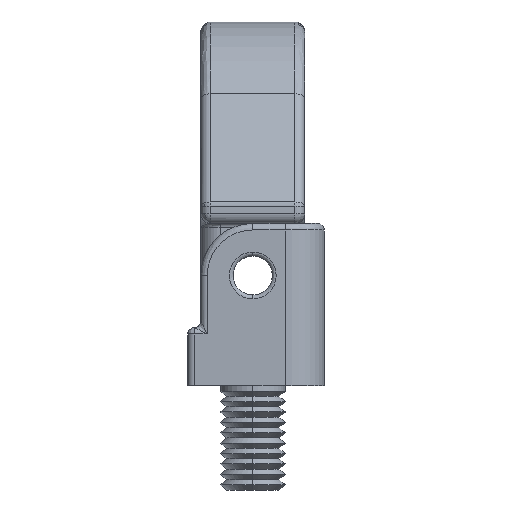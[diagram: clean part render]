
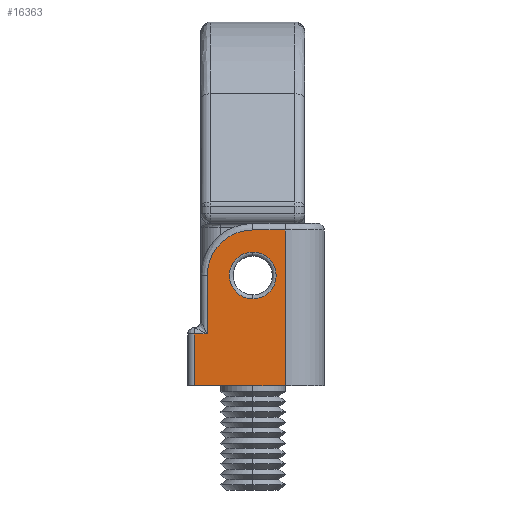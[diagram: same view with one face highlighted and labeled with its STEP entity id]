
A CAD part, left-side view. The second image highlights one B-rep face of the part: STEP entity #16363.
In plain terms, the highlighted planar face has unit normal (-1, 0, 0).
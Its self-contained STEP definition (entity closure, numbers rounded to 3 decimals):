
#341 = CARTESIAN_POINT ( 'NONE',  ( 4.261, -135.484, -228.515 ) ) ;
#794 = AXIS2_PLACEMENT_3D ( 'NONE', #1098, #1099, #1100 ) ;
#1072 = FACE_OUTER_BOUND ( 'NONE', #14357, .T. ) ;
#1087 = FACE_BOUND ( 'NONE', #14379, .T. ) ;
#1089 = PLANE ( 'NONE',  #794 ) ;
#1098 = CARTESIAN_POINT ( 'NONE',  ( 4.261, -139.484, -220.015 ) ) ;
#1099 = DIRECTION ( 'NONE',  ( 1., 0., 0. ) ) ;
#1100 = DIRECTION ( 'NONE',  ( 0., 1., 0. ) ) ;
#7823 =( BOUNDED_CURVE ( )  B_SPLINE_CURVE ( 3, ( #8089, #8093, #8094, #8095 ),
 .UNSPECIFIED., .F., .T. ) 
 B_SPLINE_CURVE_WITH_KNOTS ( ( 4, 4 ),
 ( 0.25, 0.75 ),
 .UNSPECIFIED. ) 
 CURVE ( )  GEOMETRIC_REPRESENTATION_ITEM ( )  RATIONAL_B_SPLINE_CURVE ( ( 1., 0.333, 0.333, 1. ) ) 
 REPRESENTATION_ITEM ( '' )  );
#8089 = CARTESIAN_POINT ( 'NONE',  ( 4.261, -139.984, -218.215 ) ) ;
#8093 = CARTESIAN_POINT ( 'NONE',  ( 4.261, -136.384, -218.215 ) ) ;
#8094 = CARTESIAN_POINT ( 'NONE',  ( 4.261, -136.384, -221.815 ) ) ;
#8095 = CARTESIAN_POINT ( 'NONE',  ( 4.261, -139.984, -221.815 ) ) ;
#8325 = CARTESIAN_POINT ( 'NONE',  ( 4.261, -139.984, -218.215 ) ) ;
#8326 = CARTESIAN_POINT ( 'NONE',  ( 4.261, -139.984, -221.815 ) ) ;
#8403 = CARTESIAN_POINT ( 'NONE',  ( 4.261, -142.484, -216.515 ) ) ;
#8406 = CARTESIAN_POINT ( 'NONE',  ( 4.261, -135.484, -224.515 ) ) ;
#8412 = CARTESIAN_POINT ( 'NONE',  ( 4.261, -136.484, -220.015 ) ) ;
#8413 = CARTESIAN_POINT ( 'NONE',  ( 4.261, -139.984, -216.515 ) ) ;
#8439 = CARTESIAN_POINT ( 'NONE',  ( 4.261, -136.484, -224.515 ) ) ;
#14357 = EDGE_LOOP ( 'NONE', ( #16215, #16216, #16217, #16218, #16219, #16220, #16221 ) ) ;
#14379 = EDGE_LOOP ( 'NONE', ( #16213, #16214 ) ) ;
#15943 = EDGE_CURVE ( 'NONE', #17893, #17926, #20333, .T. ) ;
#15945 = EDGE_CURVE ( 'NONE', #17926, #17899, #20325, .T. ) ;
#15947 = EDGE_CURVE ( 'NONE', #17899, #17900, #19663, .T. ) ;
#15949 = EDGE_CURVE ( 'NONE', #17900, #17890, #20350, .T. ) ;
#15950 = EDGE_CURVE ( 'NONE', #17813, #17812, #19664, .T. ) ;
#15970 = EDGE_CURVE ( 'NONE', #16189, #17893, #20403, .T. ) ;
#15972 = EDGE_CURVE ( 'NONE', #16189, #16185, #20422, .T. ) ;
#15973 = EDGE_CURVE ( 'NONE', #17890, #16185, #20420, .T. ) ;
#16185 = VERTEX_POINT ( 'NONE', #20867 ) ;
#16189 = VERTEX_POINT ( 'NONE', #341 ) ;
#16213 = ORIENTED_EDGE ( 'NONE', *, *, #15950, .F. ) ;
#16214 = ORIENTED_EDGE ( 'NONE', *, *, #17598, .F. ) ;
#16215 = ORIENTED_EDGE ( 'NONE', *, *, #15972, .T. ) ;
#16216 = ORIENTED_EDGE ( 'NONE', *, *, #15973, .F. ) ;
#16217 = ORIENTED_EDGE ( 'NONE', *, *, #15949, .F. ) ;
#16218 = ORIENTED_EDGE ( 'NONE', *, *, #15947, .F. ) ;
#16219 = ORIENTED_EDGE ( 'NONE', *, *, #15945, .F. ) ;
#16220 = ORIENTED_EDGE ( 'NONE', *, *, #15943, .F. ) ;
#16221 = ORIENTED_EDGE ( 'NONE', *, *, #15970, .F. ) ;
#16363 = ADVANCED_FACE ( 'NONE', ( #1087, #1072 ), #1089, .F. ) ;
#17598 = EDGE_CURVE ( 'NONE', #17812, #17813, #7823, .T. ) ;
#17812 = VERTEX_POINT ( 'NONE', #8325 ) ;
#17813 = VERTEX_POINT ( 'NONE', #8326 ) ;
#17890 = VERTEX_POINT ( 'NONE', #8403 ) ;
#17893 = VERTEX_POINT ( 'NONE', #8406 ) ;
#17899 = VERTEX_POINT ( 'NONE', #8412 ) ;
#17900 = VERTEX_POINT ( 'NONE', #8413 ) ;
#17926 = VERTEX_POINT ( 'NONE', #8439 ) ;
#19663 =( BOUNDED_CURVE ( )  B_SPLINE_CURVE ( 3, ( #20341, #20340, #20346, #20347 ),
 .UNSPECIFIED., .F., .T. ) 
 B_SPLINE_CURVE_WITH_KNOTS ( ( 4, 4 ),
 ( 0., 1. ),
 .UNSPECIFIED. ) 
 CURVE ( )  GEOMETRIC_REPRESENTATION_ITEM ( )  RATIONAL_B_SPLINE_CURVE ( ( 1., 0.805, 0.805, 1. ) ) 
 REPRESENTATION_ITEM ( '' )  );
#19664 =( BOUNDED_CURVE ( )  B_SPLINE_CURVE ( 3, ( #20349, #20348, #20356, #20357 ),
 .UNSPECIFIED., .F., .T. ) 
 B_SPLINE_CURVE_WITH_KNOTS ( ( 4, 4 ),
 ( 0.75, 1.25 ),
 .UNSPECIFIED. ) 
 CURVE ( )  GEOMETRIC_REPRESENTATION_ITEM ( )  RATIONAL_B_SPLINE_CURVE ( ( 1., 0.333, 0.333, 1. ) ) 
 REPRESENTATION_ITEM ( '' )  );
#19837 = VECTOR ( 'NONE', #20335, 1000. ) ;
#19839 = VECTOR ( 'NONE', #20339, 1000. ) ;
#19844 = VECTOR ( 'NONE', #20354, 1000. ) ;
#19865 = VECTOR ( 'NONE', #20427, 1000. ) ;
#19871 = VECTOR ( 'NONE', #20419, 1000. ) ;
#19874 = VECTOR ( 'NONE', #20429, 1000. ) ;
#20320 = CARTESIAN_POINT ( 'NONE',  ( 4.261, -136.484, -220.015 ) ) ;
#20325 = LINE ( 'NONE', #20320, #19839 ) ;
#20333 = LINE ( 'NONE', #20334, #19837 ) ;
#20334 = CARTESIAN_POINT ( 'NONE',  ( 4.261, -139.484, -224.515 ) ) ;
#20335 = DIRECTION ( 'NONE',  ( 0., -1., 0. ) ) ;
#20339 = DIRECTION ( 'NONE',  ( 0., 0., 1. ) ) ;
#20340 = CARTESIAN_POINT ( 'NONE',  ( 4.261, -136.484, -217.965 ) ) ;
#20341 = CARTESIAN_POINT ( 'NONE',  ( 4.261, -136.484, -220.015 ) ) ;
#20342 = CARTESIAN_POINT ( 'NONE',  ( 4.261, -139.484, -216.515 ) ) ;
#20346 = CARTESIAN_POINT ( 'NONE',  ( 4.261, -137.933, -216.515 ) ) ;
#20347 = CARTESIAN_POINT ( 'NONE',  ( 4.261, -139.984, -216.515 ) ) ;
#20348 = CARTESIAN_POINT ( 'NONE',  ( 4.261, -143.584, -221.815 ) ) ;
#20349 = CARTESIAN_POINT ( 'NONE',  ( 4.261, -139.984, -221.815 ) ) ;
#20350 = LINE ( 'NONE', #20342, #19844 ) ;
#20354 = DIRECTION ( 'NONE',  ( 0., -1., 0. ) ) ;
#20356 = CARTESIAN_POINT ( 'NONE',  ( 4.261, -143.584, -218.215 ) ) ;
#20357 = CARTESIAN_POINT ( 'NONE',  ( 4.261, -139.984, -218.215 ) ) ;
#20403 = LINE ( 'NONE', #20404, #19871 ) ;
#20404 = CARTESIAN_POINT ( 'NONE',  ( 4.261, -135.484, -220.015 ) ) ;
#20415 = CARTESIAN_POINT ( 'NONE',  ( 4.261, -139.984, -228.515 ) ) ;
#20419 = DIRECTION ( 'NONE',  ( 0., 0., 1. ) ) ;
#20420 = LINE ( 'NONE', #20428, #19874 ) ;
#20422 = LINE ( 'NONE', #20415, #19865 ) ;
#20427 = DIRECTION ( 'NONE',  ( 0., -1., 0. ) ) ;
#20428 = CARTESIAN_POINT ( 'NONE',  ( 4.261, -142.484, -223.765 ) ) ;
#20429 = DIRECTION ( 'NONE',  ( 0., 0., -1. ) ) ;
#20867 = CARTESIAN_POINT ( 'NONE',  ( 4.261, -142.484, -228.515 ) ) ;
